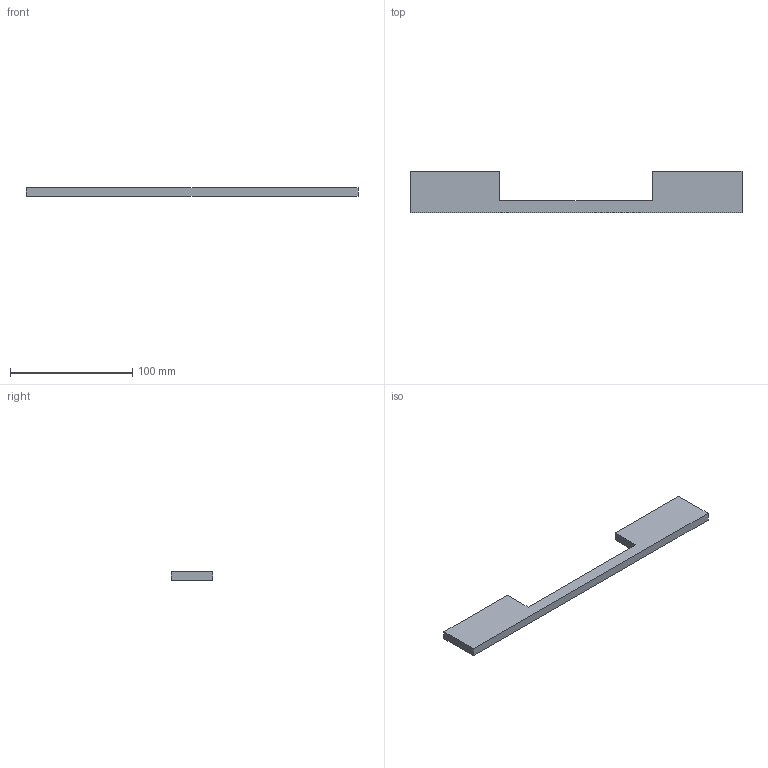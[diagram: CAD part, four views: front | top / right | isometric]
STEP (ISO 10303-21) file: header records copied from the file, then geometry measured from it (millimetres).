
FILE_DESCRIPTION( ( 'STEP AP214' ), '1' );
FILE_NAME( 'D:/D Drive/Yug/2023/ProDecor/Handle_Velitra/QC/115014.stp', '2023-06-05T09:59:08', ( '' ), ( '' ), ' ', 'PARTsolutions', ' ' );
FILE_SCHEMA( ( 'AUTOMOTIVE_DESIGN { 1 0 10303 214 1 1 1 1 }' ) );
Length unit declared in the file: millimetre
Products named in the file (1): _115014
Bounding box: 272 x 34 x 7 mm (x, y, z)
Volume: 43233.3 mm3; surface area: 17618.7 mm2
Topology: 1 solids, 1 shells, 18 faces, 36 edges, 24 vertices
Faces by surface type: plane 14, cylinder 4
Full cylindrical faces by diameter (mm): 4 x4
Entity records: 608 total; most frequent: DIRECTION 78, CARTESIAN_POINT 75, ORIENTED_EDGE 64, EDGE_CURVE 32, AXIS2_PLACEMENT_3D 27, EDGE_LOOP 26, VERTEX_POINT 24, LINE 24
